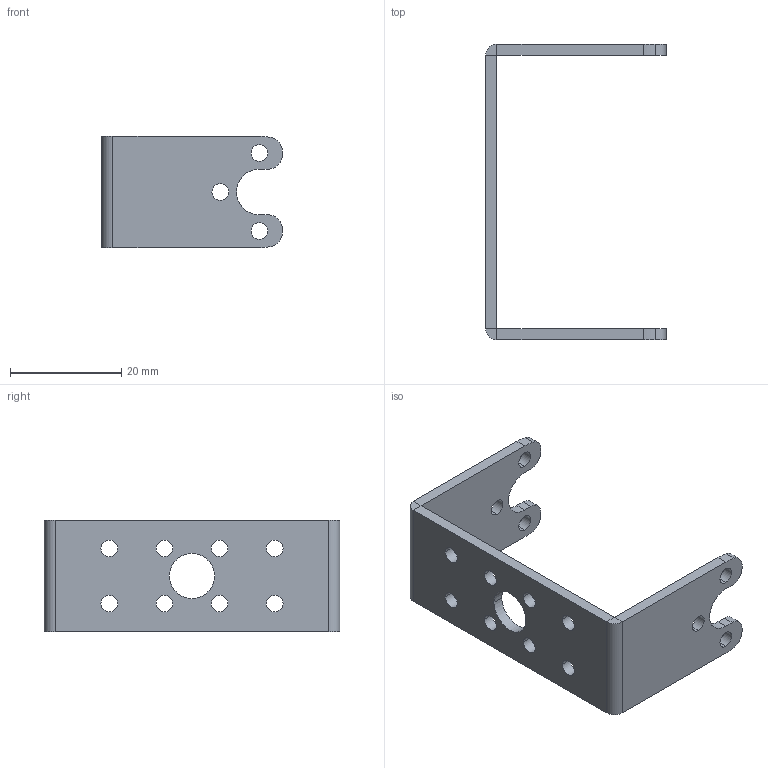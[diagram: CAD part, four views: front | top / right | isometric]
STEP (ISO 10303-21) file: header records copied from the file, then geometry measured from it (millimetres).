
FILE_DESCRIPTION((''),'2;1');
FILE_NAME('WJ-ZJ00-0041-20220328','2022-03-28T',('WUSALT01'),(''),'PRO/ENGINEER BY PARAMETRIC TECHNOLOGY CORPORATION, 2008380','PRO/ENGINEER BY PARAMETRIC TECHNOLOGY CORPORATION, 2008380','');
FILE_SCHEMA(('AUTOMOTIVE_DESIGN_CC2 { 1 2 10303 214 -1 1 5 2 }'));
Length unit declared in the file: millimetre
Products named in the file (1): WJ-ZJ00-0041-20220328
Bounding box: 32.38 x 53.05 x 20 mm (x, y, z)
Volume: 3951.2 mm3; surface area: 4830.8 mm2
Topology: 1 solids, 1 shells, 70 faces, 188 edges, 120 vertices
Faces by surface type: cylinder 46, plane 24
Entity records: 2296 total; most frequent: DIRECTION 420, CARTESIAN_POINT 378, ORIENTED_EDGE 376, EDGE_CURVE 188, AXIS2_PLACEMENT_3D 162, VERTEX_POINT 120, EDGE_LOOP 100, VECTOR 96
